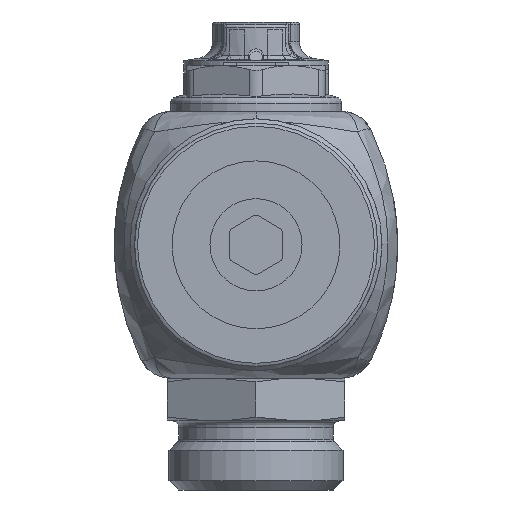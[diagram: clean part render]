
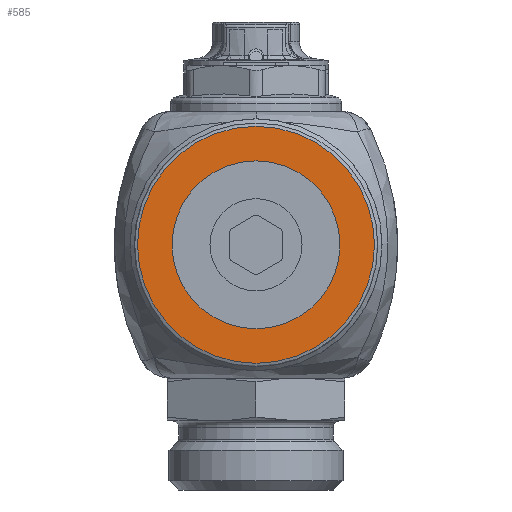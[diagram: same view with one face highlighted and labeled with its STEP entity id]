
A CAD part, front view. The second image highlights one B-rep face of the part: STEP entity #585.
In plain terms, the highlighted planar face has unit normal (0, -1, 0).
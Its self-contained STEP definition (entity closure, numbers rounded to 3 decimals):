
#585=ADVANCED_FACE('',(#15445,#15447),#15449,.F.);
#15445=FACE_BOUND('',#15446,.T.);
#15446=EDGE_LOOP('',(#19143));
#15447=FACE_BOUND('',#15448,.T.);
#15448=EDGE_LOOP('',(#19144));
#15449=PLANE('',#15450);
#15450=AXIS2_PLACEMENT_3D('',#15451,#15452,#15453);
#15451=CARTESIAN_POINT('',(0.,-245.75,0.));
#15452=DIRECTION('',(0.,1.,0.));
#15453=DIRECTION('',(-1.,0.,0.));
#19143=ORIENTED_EDGE('',*,*,#27021,.T.);
#19144=ORIENTED_EDGE('',*,*,#27062,.T.);
#27021=EDGE_CURVE('',#30495,#30495,#30496,.T.);
#27062=EDGE_CURVE('',#30566,#30566,#30567,.F.);
#30495=VERTEX_POINT('',#46703);
#30496=CIRCLE('',#46704,18.);
#30566=VERTEX_POINT('',#46876);
#30567=CIRCLE('',#46877,12.75);
#46703=CARTESIAN_POINT('',(18.,-245.75,0.));
#46704=AXIS2_PLACEMENT_3D('',#46705,#46706,#46707);
#46705=CARTESIAN_POINT('',(0.,-245.75,0.));
#46706=DIRECTION('',(0.,-1.,0.));
#46707=DIRECTION('',(1.,0.,0.));
#46876=CARTESIAN_POINT('',(12.75,-245.75,0.));
#46877=AXIS2_PLACEMENT_3D('',#46878,#46879,#46880);
#46878=CARTESIAN_POINT('',(0.,-245.75,0.));
#46879=DIRECTION('',(0.,-1.,0.));
#46880=DIRECTION('',(1.,0.,0.));
